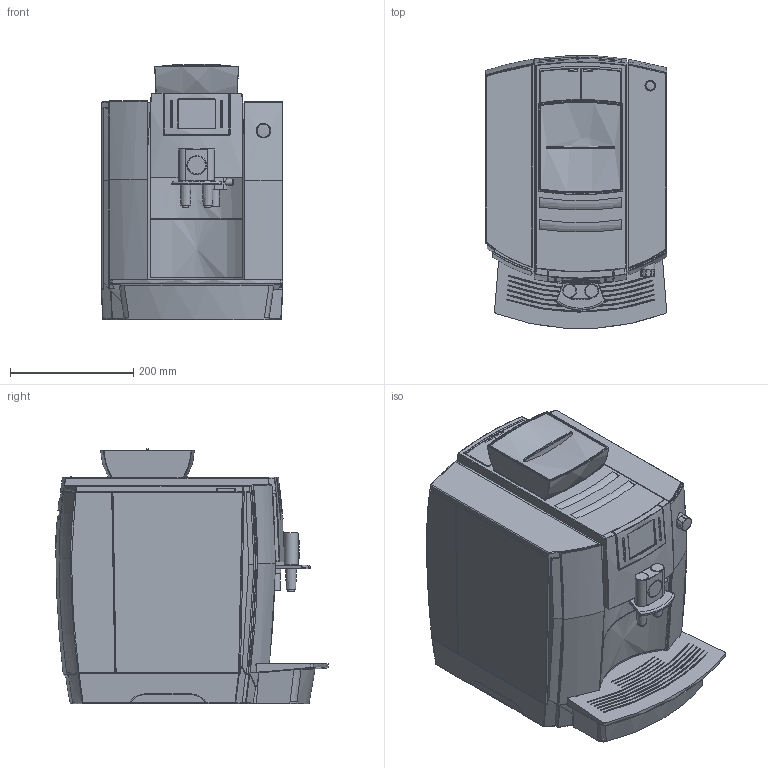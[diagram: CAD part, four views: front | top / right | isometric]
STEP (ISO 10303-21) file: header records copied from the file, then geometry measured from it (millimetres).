
FILE_DESCRIPTION (( 'STEP AP214' ), '1' );
FILE_NAME ('WE6.STEP', '2016-01-27T16:04:15', ( '' ), ( '' ), 'SwSTEP 2.0', 'SolidWorks 2015', '' );
FILE_SCHEMA (( 'AUTOMOTIVE_DESIGN' ));
Length unit declared in the file: millimetre
Products named in the file (1): WE6
Bounding box: 295 x 442.66 x 414.93 mm (x, y, z)
Volume: 36969725.2 mm3; surface area: 804375.2 mm2
Topology: 1 solids, 1 shells, 1314 faces, 3472 edges, 2161 vertices
Faces by surface type: bspline 831, plane 272, cylinder 158, sphere 29, cone 20, torus 4
Full cylindrical faces by diameter (mm): 9.9 x2, 10.2 x1, 16 x1, 22 x2, 23.5 x1, 28.5 x1
Entity records: 84125 total; most frequent: CARTESIAN_POINT 58346, ORIENTED_EDGE 6798, EDGE_CURVE 3399, DIRECTION 2644, VERTEX_POINT 2150, B_SPLINE_CURVE_WITH_KNOTS 2141, EDGE_LOOP 1391, FACE_OUTER_BOUND 1326
